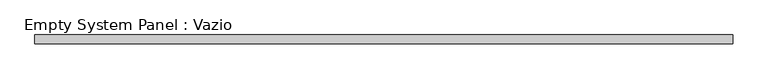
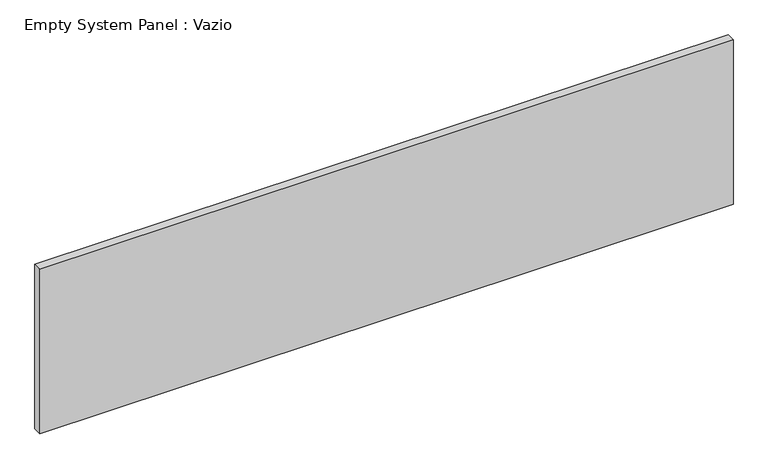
"""IFC4 building model written with IfcOpenShell, lengths in millimetres: plate geometry, Empty System Panel : Vazio."""

from ifc_helpers import new_model, si_unit, origin, origin_with_axes, place, context, project, spatial, polyline, outline, extrude, source, transform, mapped, element, save


def empty_system_panel_vazio_baf5ca11(model_context):
    return source(origin(), model_context, "Body", "SweptSolid", [
        extrude(outline(polyline([(4000.0, 50.0), (-4000.0, 50.0), (-4000.0, 150.0), (4000.0, 150.0), (4000.0, 50.0)])), origin_with_axes(), (0.0, 0.0, 1.0), 2005.5613018),
    ])


if __name__ == "__main__":
    model = new_model("IFC4")
    model_context = context("Model", 3, world=origin())
    ifc_project = project(units=[si_unit("LENGTHUNIT", "METRE", prefix="MILLI")], contexts=[model_context])
    site = spatial("IfcSite", under=ifc_project)
    building = spatial("IfcBuilding", under=site)
    placement = place(None, origin())
    empty_system_panel_vazio_shape = empty_system_panel_vazio_baf5ca11(model_context)
    element("IfcPlate", 1, ObjectType="Empty System Panel : Vazio", at=placement, inside=building, context=model_context, shape_type="MappedRepresentation", body=[
        mapped(empty_system_panel_vazio_shape, transform((0.0, 0.0, 0.0), x_axis=(1.0, 0.0, 0.0), y_axis=(0.0, 1.0, 0.0), z_axis=(0.0, 0.0, 1.0))),
    ])
    save(model, "model.ifc")
